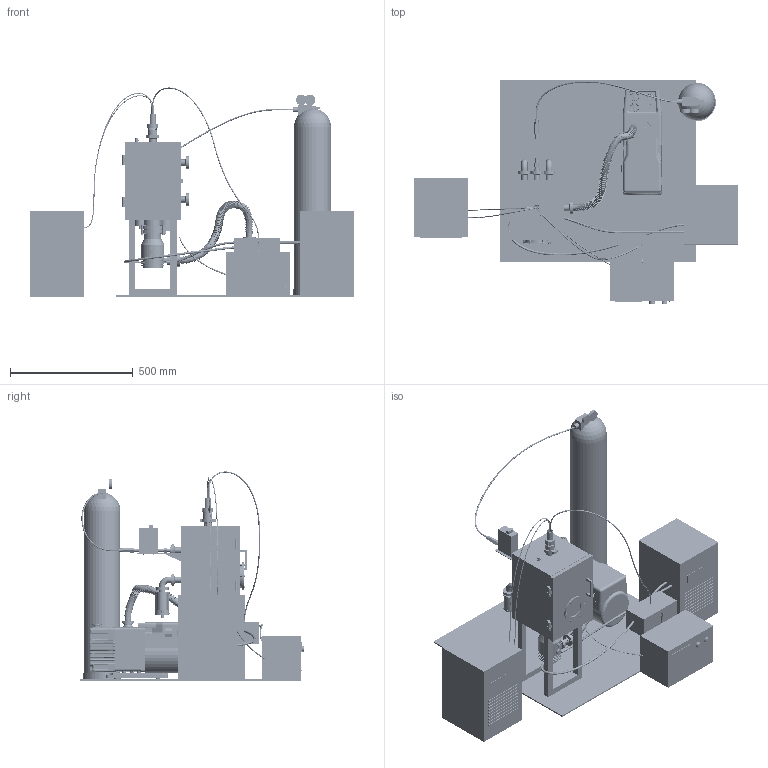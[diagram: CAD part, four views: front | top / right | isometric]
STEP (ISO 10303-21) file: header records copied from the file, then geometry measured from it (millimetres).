
FILE_DESCRIPTION(('Open CASCADE Model'),'2;1');
FILE_NAME('Open CASCADE Shape Model','2026-11-24T07:38:30',('Author'),( 'Open CASCADE'),'Open CASCADE STEP processor 7.9','Open CASCADE 7.9' ,'Unknown');
FILE_SCHEMA(('AUTOMOTIVE_DESIGN { 1 0 10303 214 1 1 1 1 }'));
Length unit declared in the file: millimetre
Products named in the file (340): Sputter system R06 coolant fitting revision; P000; P001; P002; P003; P004; P005; P006; P007; P008; P009; P010; P011; P012; P013; P014; P015; P016; P017; P018; P019; P020; P021; P022; P023; P024; P025; P026; P027; P028; P029; P030; P031; P032; P033; P034; P035; P036; P037; P038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
Assembly tree (339 placements, depth 2):
  Sputter system R06 coolant fitting revision
    P000
    P001
    P002
    P003
    P004
    P005
    P006
    P007
    P008
    P009
    P010
    P011
    P012
    P013
    P014
    P015
    P016
    P017
    P018
    P019
    P020
    P021
    P022
    P023
    P024
    P025
    P026
    P027
    P028
    P029
    P030
    P031
    P032
    P033
    P034
    P035
    P036
    P037
    P038
    P039
    P040
    P041
    P042
    P043
    P044
    P045
    P046
    P047
    P048
    P049
    P050
    P051
    P052
    P053
    P054
    P055
    P056
    P057
    P058
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Bounding box: 1320 x 912 x 850.66 mm (x, y, z)
Volume: 82917670.3 mm3; surface area: 5686147 mm2
Topology: 406 solids, 432 shells, 6884 faces, 15334 edges, 9566 vertices
Faces by surface type: plane 2993, cylinder 2067, bspline 845, cone 800, torus 91, sphere 85, revolution 3
Full cylindrical faces by diameter (mm): 0.9 x6, 1 x27, 1.55 x1, 2 x2, 2.3 x2, 2.425 x3, 2.5 x3, 2.529 x36, 3 x17, 3.1 x1, 3.13 x1, 3.2 x10, 3.3 x38, 3.332 x6, 3.4 x1, 3.5 x1, 3.6 x1, 3.7 x4, 4 x14, 4.2 x8, 4.234 x6, 4.3 x1, 4.34 x1, 4.5 x2, 4.6 x8, 5 x13, 5.5 x21, 5.6 x12, 5.7 x24, 5.8 x12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
Entity records: 570270 total; most frequent: CARTESIAN_POINT 259631, DIRECTION 53912, ORIENTED_EDGE 30428, PCURVE 30428, DEFINITIONAL_REPRESENTATION 30428, LINE 28055, VECTOR 28055, EDGE_CURVE 15214
